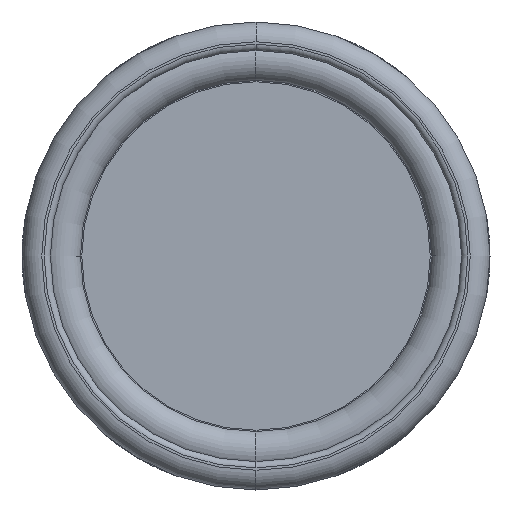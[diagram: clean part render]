
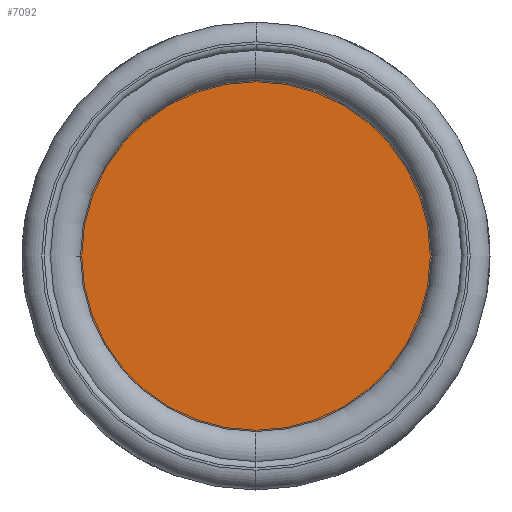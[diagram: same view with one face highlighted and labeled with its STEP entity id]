
A CAD part, left-side view. The second image highlights one B-rep face of the part: STEP entity #7092.
In plain terms, the highlighted planar face has unit normal (-1, 0, 0).
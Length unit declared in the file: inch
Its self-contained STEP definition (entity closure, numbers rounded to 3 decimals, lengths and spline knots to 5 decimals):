
#471 = DIRECTION ( 'NONE',  ( 0., -1., 0. ) ) ;
#1177 = FACE_OUTER_BOUND ( 'NONE', #7408, .T. ) ;
#1201 = ORIENTED_EDGE ( 'NONE', *, *, #8050, .T. ) ;
#1578 = EDGE_CURVE ( 'NONE', #6925, #1997, #1769, .T. ) ;
#1693 = AXIS2_PLACEMENT_3D ( 'NONE', #7955, #4250, #471 ) ;
#1705 = CARTESIAN_POINT ( 'NONE',  ( 0., 0.2775, 0. ) ) ;
#1769 = CIRCLE ( 'NONE', #1693, 0.2775 ) ;
#1997 = VERTEX_POINT ( 'NONE', #2582 ) ;
#2343 = DIRECTION ( 'NONE',  ( 0., 1., 0. ) ) ;
#2582 = CARTESIAN_POINT ( 'NONE',  ( 0., 0.2775, 0. ) ) ;
#2849 = CARTESIAN_POINT ( 'NONE',  ( 0., -0.2775, 0. ) ) ;
#2861 = DIRECTION ( 'NONE',  ( -1., 0., 0. ) ) ;
#4233 = AXIS2_PLACEMENT_3D ( 'NONE', #1705, #6172, #2343 ) ;
#4246 = PLANE ( 'NONE',  #4233 ) ;
#4247 = AXIS2_PLACEMENT_3D ( 'NONE', #6650, #2861, #7251 ) ;
#4250 = DIRECTION ( 'NONE',  ( -1., 0., 0. ) ) ;
#6172 = DIRECTION ( 'NONE',  ( 1., 0., 0. ) ) ;
#6565 = ORIENTED_EDGE ( 'NONE', *, *, #1578, .T. ) ;
#6650 = CARTESIAN_POINT ( 'NONE',  ( 0., 0., 0. ) ) ;
#6925 = VERTEX_POINT ( 'NONE', #2849 ) ;
#6939 = CIRCLE ( 'NONE', #4247, 0.2775 ) ;
#7092 = ADVANCED_FACE ( 'NONE', ( #1177 ), #4246, .F. ) ;
#7251 = DIRECTION ( 'NONE',  ( 0., -1., 0. ) ) ;
#7408 = EDGE_LOOP ( 'NONE', ( #1201, #6565 ) ) ;
#7955 = CARTESIAN_POINT ( 'NONE',  ( 0., 0., 0. ) ) ;
#8050 = EDGE_CURVE ( 'NONE', #1997, #6925, #6939, .T. ) ;
